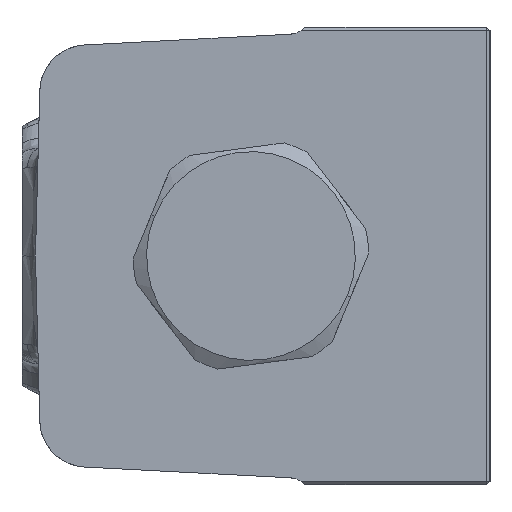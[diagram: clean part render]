
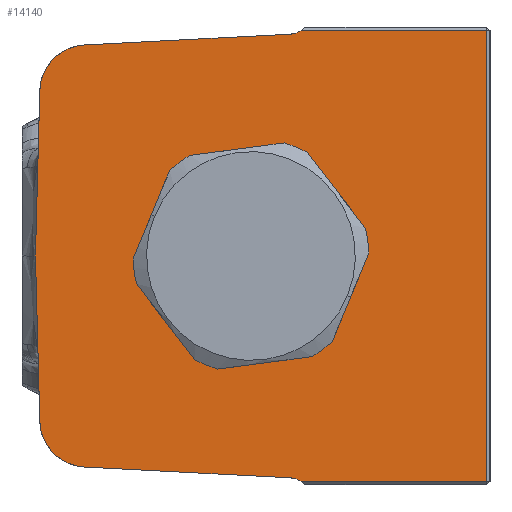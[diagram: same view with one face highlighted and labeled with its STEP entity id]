
A CAD part, left-side view. The second image highlights one B-rep face of the part: STEP entity #14140.
In plain terms, the highlighted planar face has unit normal (-1, 0, 0).
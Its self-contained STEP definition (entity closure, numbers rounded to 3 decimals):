
#147 = DIRECTION ( 'NONE',  ( 0., 0., 1. ) ) ;
#636 = FACE_OUTER_BOUND ( 'NONE', #15578, .T. ) ;
#863 = DIRECTION ( 'NONE',  ( 0., -0.999, 0.052 ) ) ;
#1119 = AXIS2_PLACEMENT_3D ( 'NONE', #16584, #8252, #25505 ) ;
#1503 = ORIENTED_EDGE ( 'NONE', *, *, #29218, .T. ) ;
#1582 = VERTEX_POINT ( 'NONE', #31865 ) ;
#2205 = ORIENTED_EDGE ( 'NONE', *, *, #29171, .T. ) ;
#2366 = VERTEX_POINT ( 'NONE', #8469 ) ;
#2639 = DIRECTION ( 'NONE',  ( 1., 0., 0. ) ) ;
#2795 = VERTEX_POINT ( 'NONE', #8473 ) ;
#2891 = CARTESIAN_POINT ( 'NONE',  ( -46.6, -35., -33.5 ) ) ;
#3015 = DIRECTION ( 'NONE',  ( 0., 0., 1. ) ) ;
#3027 = CARTESIAN_POINT ( 'NONE',  ( -46.6, -35., 33.5 ) ) ;
#3066 = PLANE ( 'NONE',  #22114 ) ;
#3826 = EDGE_LOOP ( 'NONE', ( #5992, #29247 ) ) ;
#3882 = EDGE_CURVE ( 'NONE', #4044, #2366, #8162, .T. ) ;
#4044 = VERTEX_POINT ( 'NONE', #34763 ) ;
#5263 = DIRECTION ( 'NONE',  ( 0., -0.999, -0.052 ) ) ;
#5734 = DIRECTION ( 'NONE',  ( -1., 0., 0. ) ) ;
#5992 = ORIENTED_EDGE ( 'NONE', *, *, #26387, .F. ) ;
#6462 = AXIS2_PLACEMENT_3D ( 'NONE', #16456, #2639, #147 ) ;
#6584 = CIRCLE ( 'NONE', #25599, 16. ) ;
#6927 = DIRECTION ( 'NONE',  ( 0., -0.026, 1. ) ) ;
#6963 = DIRECTION ( 'NONE',  ( 0., 0., 1. ) ) ;
#8097 = ORIENTED_EDGE ( 'NONE', *, *, #17948, .T. ) ;
#8157 = CARTESIAN_POINT ( 'NONE',  ( -46.6, -35.5, -34. ) ) ;
#8162 = LINE ( 'NONE', #14470, #22120 ) ;
#8252 = DIRECTION ( 'NONE',  ( 1., 0., 0. ) ) ;
#8469 = CARTESIAN_POINT ( 'NONE',  ( -46.6, -5.85, 32.94 ) ) ;
#8473 = CARTESIAN_POINT ( 'NONE',  ( -46.6, -7.444, -33.5 ) ) ;
#8725 = VERTEX_POINT ( 'NONE', #21334 ) ;
#8734 = CARTESIAN_POINT ( 'NONE',  ( -46.6, 31.358, 24.53 ) ) ;
#9016 = CARTESIAN_POINT ( 'NONE',  ( -46.6, -5.693, 35.936 ) ) ;
#9855 = CARTESIAN_POINT ( 'NONE',  ( -46.6, -35., -34. ) ) ;
#9898 = VERTEX_POINT ( 'NONE', #23834 ) ;
#10058 = CIRCLE ( 'NONE', #35105, 16. ) ;
#10162 = VERTEX_POINT ( 'NONE', #18010 ) ;
#10581 = VECTOR ( 'NONE', #15967, 1000. ) ;
#10604 = EDGE_CURVE ( 'NONE', #1582, #21652, #10058, .T. ) ;
#10623 = CARTESIAN_POINT ( 'NONE',  ( -46.6, 31.978, -0.837 ) ) ;
#12076 = LINE ( 'NONE', #26148, #28134 ) ;
#12935 = EDGE_CURVE ( 'NONE', #13870, #2795, #19269, .T. ) ;
#13129 = EDGE_CURVE ( 'NONE', #2795, #20999, #26811, .T. ) ;
#13870 = VERTEX_POINT ( 'NONE', #29329 ) ;
#14012 = DIRECTION ( 'NONE',  ( 0., -1., 0. ) ) ;
#14140 = ADVANCED_FACE ( 'NONE', ( #636, #28618 ), #3066, .T. ) ;
#14470 = CARTESIAN_POINT ( 'NONE',  ( -46.6, 1.706, 32.544 ) ) ;
#15000 = LINE ( 'NONE', #9855, #23401 ) ;
#15089 = CARTESIAN_POINT ( 'NONE',  ( -46.6, 24.36, 24.347 ) ) ;
#15551 = CARTESIAN_POINT ( 'NONE',  ( -46.6, -7.444, 33.5 ) ) ;
#15578 = EDGE_LOOP ( 'NONE', ( #29343, #24401, #29498, #21891, #2205, #25717, #1503, #32911, #29491, #32748, #8097 ) ) ;
#15841 = DIRECTION ( 'NONE',  ( 0., -0.026, -1. ) ) ;
#15967 = DIRECTION ( 'NONE',  ( 0., 1., 0. ) ) ;
#16380 = CARTESIAN_POINT ( 'NONE',  ( -46.6, 1.706, -32.544 ) ) ;
#16456 = CARTESIAN_POINT ( 'NONE',  ( -46.6, 24.36, -24.347 ) ) ;
#16584 = CARTESIAN_POINT ( 'NONE',  ( -46.6, -5.693, -35.936 ) ) ;
#16840 = DIRECTION ( 'NONE',  ( 0., -1., 0. ) ) ;
#17023 = AXIS2_PLACEMENT_3D ( 'NONE', #15089, #20336, #6963 ) ;
#17948 = EDGE_CURVE ( 'NONE', #8725, #13870, #33183, .T. ) ;
#18010 = CARTESIAN_POINT ( 'NONE',  ( -46.6, 32., 0. ) ) ;
#19169 = VERTEX_POINT ( 'NONE', #15551 ) ;
#19269 = CIRCLE ( 'NONE', #1119, 3. ) ;
#19300 = DIRECTION ( 'NONE',  ( -1., 0., 0. ) ) ;
#19448 = EDGE_CURVE ( 'NONE', #10162, #30405, #12076, .T. ) ;
#19661 = DIRECTION ( 'NONE',  ( 0., 0., 1. ) ) ;
#19990 = DIRECTION ( 'NONE',  ( 1., 0., 0. ) ) ;
#20207 = CIRCLE ( 'NONE', #17023, 7. ) ;
#20336 = DIRECTION ( 'NONE',  ( -1., 0., 0. ) ) ;
#20746 = VERTEX_POINT ( 'NONE', #3027 ) ;
#20999 = VERTEX_POINT ( 'NONE', #2891 ) ;
#21334 = CARTESIAN_POINT ( 'NONE',  ( -46.6, 24.726, -31.337 ) ) ;
#21345 = DIRECTION ( 'NONE',  ( 0., -1., 0. ) ) ;
#21652 = VERTEX_POINT ( 'NONE', #28296 ) ;
#21891 = ORIENTED_EDGE ( 'NONE', *, *, #33348, .T. ) ;
#22004 = LINE ( 'NONE', #27147, #10581 ) ;
#22007 = CARTESIAN_POINT ( 'NONE',  ( -46.6, 0., 0. ) ) ;
#22114 = AXIS2_PLACEMENT_3D ( 'NONE', #8157, #32399, #3015 ) ;
#22120 = VECTOR ( 'NONE', #863, 1000. ) ;
#23306 = EDGE_CURVE ( 'NONE', #20999, #20746, #15000, .T. ) ;
#23401 = VECTOR ( 'NONE', #26281, 1000. ) ;
#23834 = CARTESIAN_POINT ( 'NONE',  ( -46.6, 31.358, -24.53 ) ) ;
#24401 = ORIENTED_EDGE ( 'NONE', *, *, #13129, .T. ) ;
#25505 = DIRECTION ( 'NONE',  ( 0., 0., 1. ) ) ;
#25599 = AXIS2_PLACEMENT_3D ( 'NONE', #22007, #5734, #14012 ) ;
#25717 = ORIENTED_EDGE ( 'NONE', *, *, #3882, .F. ) ;
#26067 = LINE ( 'NONE', #10623, #33683 ) ;
#26148 = CARTESIAN_POINT ( 'NONE',  ( -46.6, 31.978, 0.837 ) ) ;
#26281 = DIRECTION ( 'NONE',  ( 0., 0., 1. ) ) ;
#26387 = EDGE_CURVE ( 'NONE', #21652, #1582, #6584, .T. ) ;
#26811 = LINE ( 'NONE', #29857, #28497 ) ;
#27147 = CARTESIAN_POINT ( 'NONE',  ( -46.6, -35.5, 33.5 ) ) ;
#28134 = VECTOR ( 'NONE', #6927, 1000. ) ;
#28296 = CARTESIAN_POINT ( 'NONE',  ( -46.6, -16., 0. ) ) ;
#28497 = VECTOR ( 'NONE', #21345, 1000. ) ;
#28531 = EDGE_CURVE ( 'NONE', #8725, #9898, #31724, .T. ) ;
#28618 = FACE_BOUND ( 'NONE', #3826, .T. ) ;
#29171 = EDGE_CURVE ( 'NONE', #19169, #2366, #29578, .T. ) ;
#29218 = EDGE_CURVE ( 'NONE', #4044, #30405, #20207, .T. ) ;
#29247 = ORIENTED_EDGE ( 'NONE', *, *, #10604, .F. ) ;
#29329 = CARTESIAN_POINT ( 'NONE',  ( -46.6, -5.85, -32.94 ) ) ;
#29343 = ORIENTED_EDGE ( 'NONE', *, *, #12935, .T. ) ;
#29491 = ORIENTED_EDGE ( 'NONE', *, *, #31705, .T. ) ;
#29498 = ORIENTED_EDGE ( 'NONE', *, *, #23306, .T. ) ;
#29578 = CIRCLE ( 'NONE', #34012, 3. ) ;
#29857 = CARTESIAN_POINT ( 'NONE',  ( -46.6, -35.5, -33.5 ) ) ;
#30405 = VERTEX_POINT ( 'NONE', #8734 ) ;
#31705 = EDGE_CURVE ( 'NONE', #10162, #9898, #26067, .T. ) ;
#31724 = CIRCLE ( 'NONE', #6462, 7. ) ;
#31865 = CARTESIAN_POINT ( 'NONE',  ( -46.6, 16., 0. ) ) ;
#31877 = VECTOR ( 'NONE', #5263, 1000. ) ;
#32399 = DIRECTION ( 'NONE',  ( -1., 0., 0. ) ) ;
#32748 = ORIENTED_EDGE ( 'NONE', *, *, #28531, .F. ) ;
#32780 = CARTESIAN_POINT ( 'NONE',  ( -46.6, 0., 0. ) ) ;
#32911 = ORIENTED_EDGE ( 'NONE', *, *, #19448, .F. ) ;
#33183 = LINE ( 'NONE', #16380, #31877 ) ;
#33348 = EDGE_CURVE ( 'NONE', #20746, #19169, #22004, .T. ) ;
#33683 = VECTOR ( 'NONE', #15841, 1000. ) ;
#34012 = AXIS2_PLACEMENT_3D ( 'NONE', #9016, #19990, #19661 ) ;
#34763 = CARTESIAN_POINT ( 'NONE',  ( -46.6, 24.726, 31.337 ) ) ;
#35105 = AXIS2_PLACEMENT_3D ( 'NONE', #32780, #19300, #16840 ) ;
